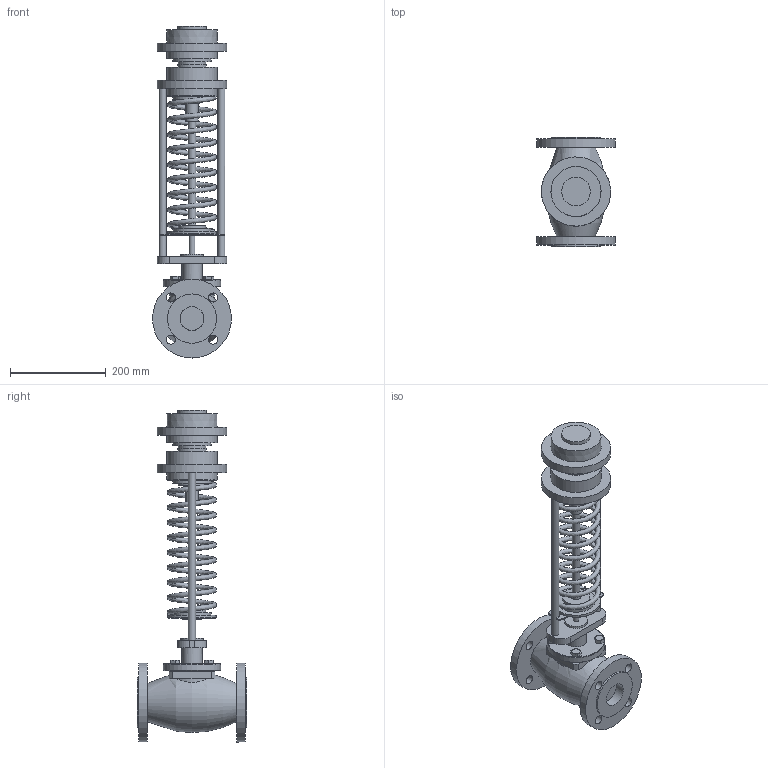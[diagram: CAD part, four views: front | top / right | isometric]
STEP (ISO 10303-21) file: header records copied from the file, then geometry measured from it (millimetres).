
FILE_DESCRIPTION(/* description */ ('Unknown'),/* implementation_level */ '2;1');
FILE_NAME(/* name */ 'RDT-S DN-50(0.1)',/* time_stamp */ '2021-11-30T11:46:50+03:00',/* author */ ('Unknown'),/* organization */ ('Unknown'),/* preprocessor_version */ 'ST-DEVELOPER v16.7',/* originating_system */ 'DEX',/* authorisation */ $);
FILE_SCHEMA (('AUTOMOTIVE_DESIGN {1 0 10303 214 3 1 1}'));
Length unit declared in the file: millimetre
Products named in the file (3): 栖闉罻22; Ñáîðêà èñï äî ñåáÿ 65-100(0.1); RDT DN-50(膰豵鵨)
Assembly tree (2 placements, depth 2):
  栖闉罻22
    Ñáîðêà èñï äî ñåáÿ 65-100(0.1)
    RDT DN-50(膰豵鵨)
Bounding box: 165 x 230 x 695 mm (x, y, z)
Volume: 4899811.8 mm3; surface area: 499904.7 mm2
Topology: 2 solids, 3 shells, 179 faces, 419 edges, 276 vertices
Faces by surface type: plane 94, cylinder 67, cone 16, bspline 1, torus 1
Full cylindrical faces by diameter (mm): 12.284 x1, 13.4 x4, 15 x2, 15.856 x1, 19 x8, 20 x1, 25.786 x1, 29 x1, 36.313 x1, 42 x2, 44.472 x1, 48 x1, 50 x2, 57.671 x1, 58 x2, 59.891 x2, 75 x1, 79.762 x1, 80 x2, 102 x1, 103 x2, 104.819 x1, 105 x2, 120 x1, 144.869 x1, 145 x1, 165 x2
Entity records: 7508 total; most frequent: CARTESIAN_POINT 2328, DIRECTION 822, ORIENTED_EDGE 670, AXIS2_PLACEMENT_3D 347, EDGE_CURVE 335, EDGE_LOOP 304, FACE_BOUND 304, VERTEX_POINT 255
